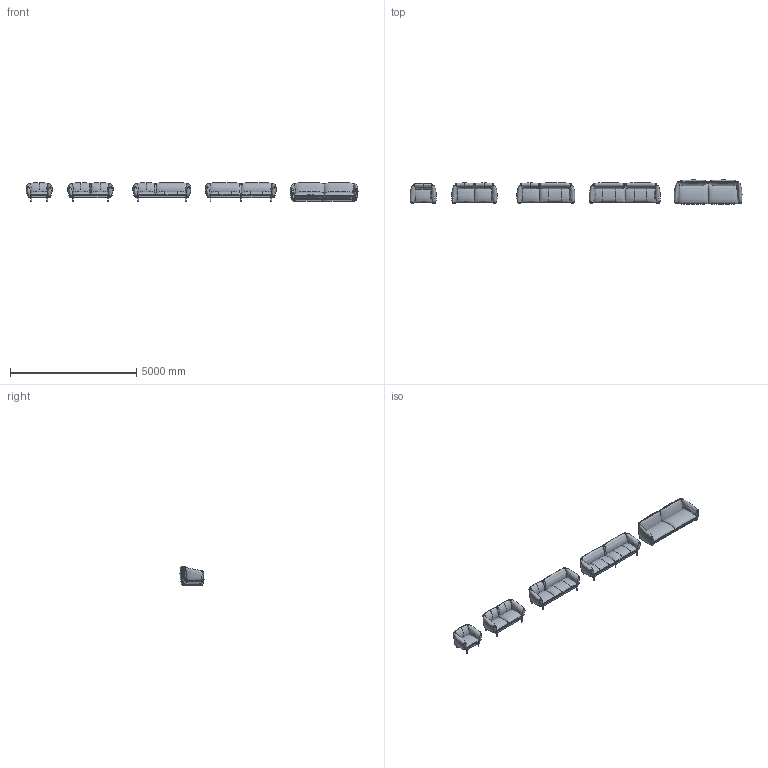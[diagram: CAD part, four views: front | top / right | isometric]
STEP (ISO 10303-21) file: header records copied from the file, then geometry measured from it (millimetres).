
FILE_DESCRIPTION(/* description */ (''),/* implementation_level */ '2;1');
FILE_NAME(/* name */ 'TRUE_Not Sofa_3D',/* time_stamp */ '2026-03-17T12:08:48+01:00',/* author */ (''),/* organization */ (''),/* preprocessor_version */ 'ST-DEVELOPER v16.5',/* originating_system */ '',/* authorisation */ '');
FILE_SCHEMA (('CONFIG_CONTROL_DESIGN'));
Products named in the file (9): Document; Sedile piccolo; Sedile grande; Bracciolo DX; Bracciolo SX; Gamba anteriore; Gamba posteriore; Schienale 1 posto; Schienale 2 posti
Assembly tree (25 placements, depth 2):
  Document
    Sedile piccolo  x2
    Sedile grande
    Bracciolo DX  x4
    Bracciolo SX  x4
    Gamba anteriore  x5
    Gamba posteriore  x5
    Schienale 1 posto  x3
    Schienale 2 posti
Bounding box: 13171.69 x 952.59 x 747.3 mm (x, y, z)
Volume: 1320446509.1 mm3; surface area: 55601950.1 mm2
Topology: 88 solids, 626 shells, 2488 faces, 7164 edges, 5372 vertices
Faces by surface type: bspline 1493, plane 498, cylinder 497
Entity records: 917706 total; most frequent: CARTESIAN_POINT 887051, ORIENTED_EDGE 7740, EDGE_CURVE 4980, VERTEX_POINT 3964, B_SPLINE_CURVE_WITH_KNOTS 3874, EDGE_LOOP 1761, ADVANCED_FACE 1646, FACE_OUTER_BOUND 1646
